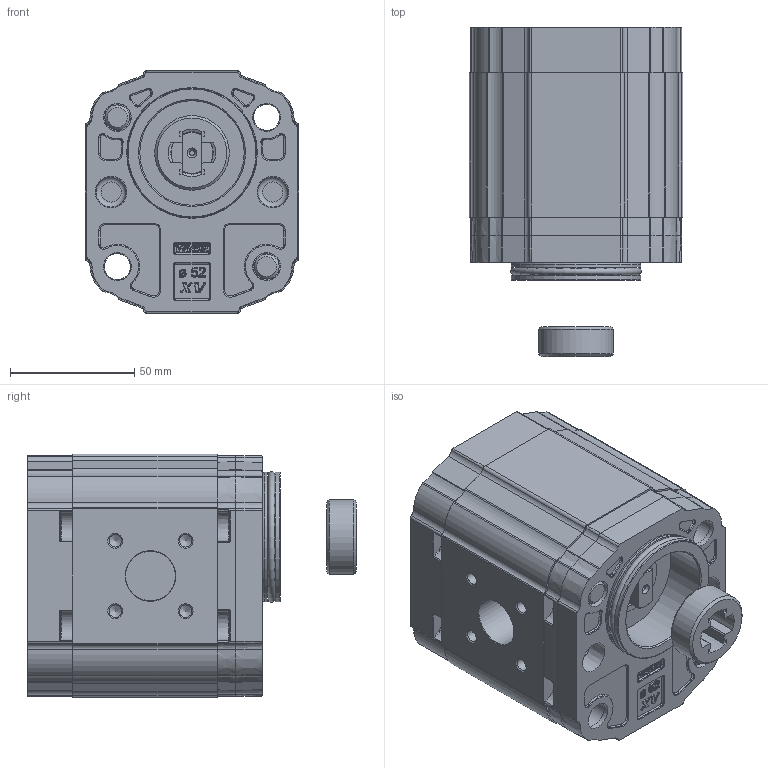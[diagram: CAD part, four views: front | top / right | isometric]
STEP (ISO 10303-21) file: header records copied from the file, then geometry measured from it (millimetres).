
FILE_DESCRIPTION(/* description */ ('Unknown'),/* implementation_level */ '2;1');
FILE_NAME(/* name */ 'X2T4732CSRD',/* time_stamp */ '2026-06-03T18:47:27+02:00',/* author */ ('Unknown'),/* organization */ ('Unknown'),/* preprocessor_version */ 'ST-DEVELOPER v16.7',/* originating_system */ 'Solid Edge',/* authorisation */ 'Unknown');
FILE_SCHEMA (('AUTOMOTIVE_DESIGN {1 0 10303 214 3 1 1}'));
Products named in the file (5): X2T4732CSRD; X2T32; 2C; X2SRH58; XT216-D
Assembly tree (4 placements, depth 2):
  X2T4732CSRD
    X2T32
    2C
    X2SRH58
    XT216-D
Bounding box: 86 x 132.2 x 98 mm (x, y, z)
Volume: 652209.5 mm3; surface area: 106954.7 mm2
Topology: 8 solids, 12 shells, 1768 faces, 4418 edges, 2727 vertices
Faces by surface type: cylinder 542, plane 500, bspline 287, cone 215, torus 181, sphere 43
Full cylindrical faces by diameter (mm): 2 x1, 3 x2, 5 x8, 10 x6, 10.5 x4, 11 x6, 12 x2, 12.5 x1, 15 x1, 16.8 x1, 17.42 x2, 20 x1, 23 x1, 25 x2, 30 x1, 32.5 x1, 36.5 x1, 42 x1, 47.8 x2, 52 x2
Entity records: 73266 total; most frequent: CARTESIAN_POINT 21029, ORIENTED_EDGE 8374, DIRECTION 8190, EDGE_CURVE 4187, AXIS2_PLACEMENT_3D 3246, VERTEX_POINT 2674, FACE_BOUND 2025, EDGE_LOOP 2015
